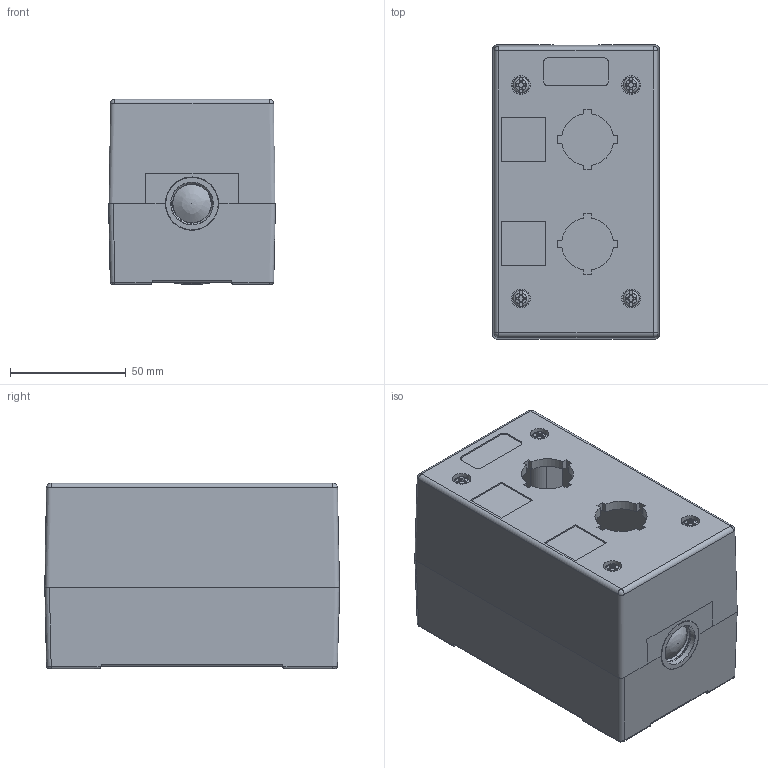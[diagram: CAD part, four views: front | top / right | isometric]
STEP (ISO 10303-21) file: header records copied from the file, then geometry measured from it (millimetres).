
FILE_DESCRIPTION(('Botoeira 2 Furos 22mm Base Preta Tampa Cinza'),'2;1');
FILE_NAME('E:\WorkFolder\Bibl\3DWeb\kp_c5q_c5qe2_step.stp','2016-07-06T09:02:47',('DIE'),('KAP Componentes Eletricos Ltda.'),'Autodesk Inventor 2011','Autodesk Inventor 2011','Direitos reservados. Proibido reproducao, cedencia ou revelacao de conteudo a terceiros, salvo com autorizacao.');
FILE_SCHEMA(('AUTOMOTIVE_DESIGN { 1 0 10303 214 1 1 1 1 }'));
Length unit declared in the file: millimetre
Products named in the file (1): C5QE2_3D
Bounding box: 72 x 127 x 80 mm (x, y, z)
Volume: 185618 mm3; surface area: 116940.5 mm2
Topology: 1 solids, 1 shells, 894 faces, 2493 edges, 1603 vertices
Faces by surface type: plane 527, cylinder 218, bspline 88, torus 29, cone 20, sphere 12
Full cylindrical faces by diameter (mm): 2.85 x48, 3.3 x22, 3.9 x4, 7 x8, 8 x4, 18.2 x1, 18.4 x1, 18.9 x1, 20 x1, 20.5 x1, 22.8 x1, 23 x2
Entity records: 35862 total; most frequent: CARTESIAN_POINT 15441, ORIENTED_EDGE 4368, DIRECTION 3956, EDGE_CURVE 2184, VECTOR 1446, LINE 1446, VERTEX_POINT 1443, AXIS2_PLACEMENT_3D 1255
